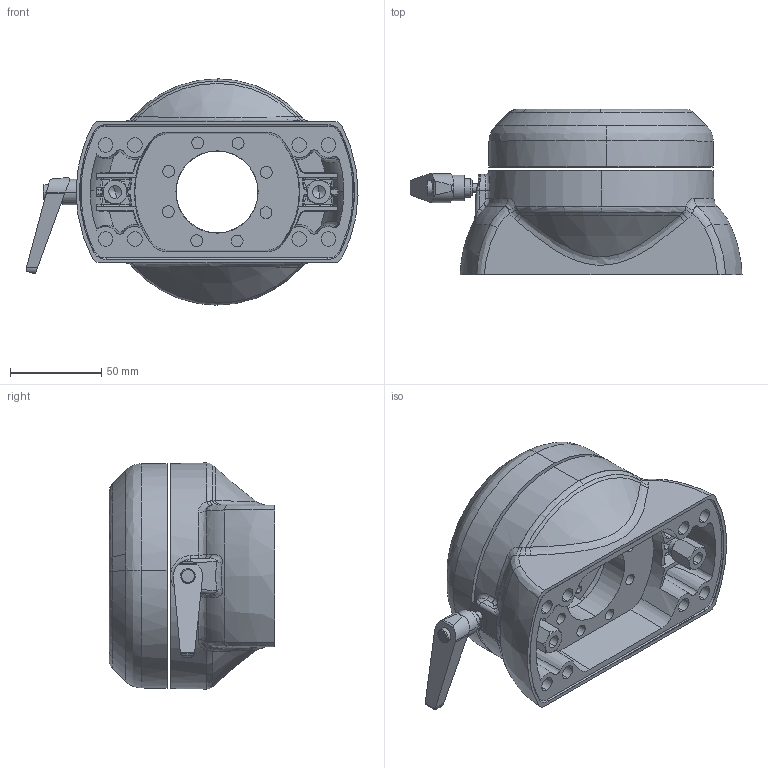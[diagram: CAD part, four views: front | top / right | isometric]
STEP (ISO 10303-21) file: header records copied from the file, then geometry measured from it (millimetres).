
FILE_DESCRIPTION (( 'STEP AP203' ), '1' );
FILE_NAME ('TP.060.6740.STEP', '2026-09-30T09:55:27', ( '' ), ( '' ), 'SwSTEP 2.0', 'SolidWorks 2015', '' );
FILE_SCHEMA (( 'CONFIG_CONTROL_DESIGN' ));
Length unit declared in the file: millimetre
Products named in the file (5): TP.060.Serrated Washer; TP.060.6740; TP.060.700; Vida Yükseltme_TP060; TP.060.Disk
Assembly tree (5 placements, depth 2):
  TP.060.6740
    TP.060.700
    TP.060.Disk
    TP.060.Serrated Washer
    Vida Yükseltme_TP060  x2
Bounding box: 181.74 x 90.59 x 123.79 mm (x, y, z)
Volume: 460454.1 mm3; surface area: 124508.5 mm2
Topology: 5 solids, 13 shells, 839 faces, 2040 edges, 1225 vertices
Faces by surface type: bspline 281, cone 180, cylinder 166, plane 117, torus 91, sphere 4
Entity records: 44092 total; most frequent: CARTESIAN_POINT 27666, ORIENTED_EDGE 3780, DIRECTION 2438, EDGE_CURVE 1890, VERTEX_POINT 1158, AXIS2_PLACEMENT_3D 997, B_SPLINE_CURVE_WITH_KNOTS 945, EDGE_LOOP 856
